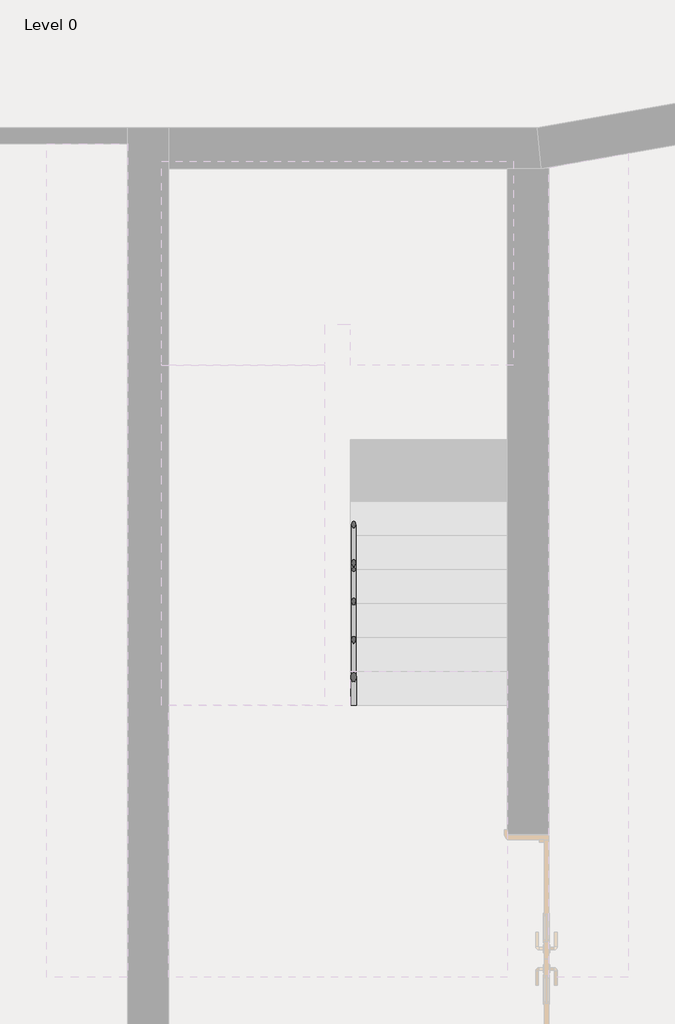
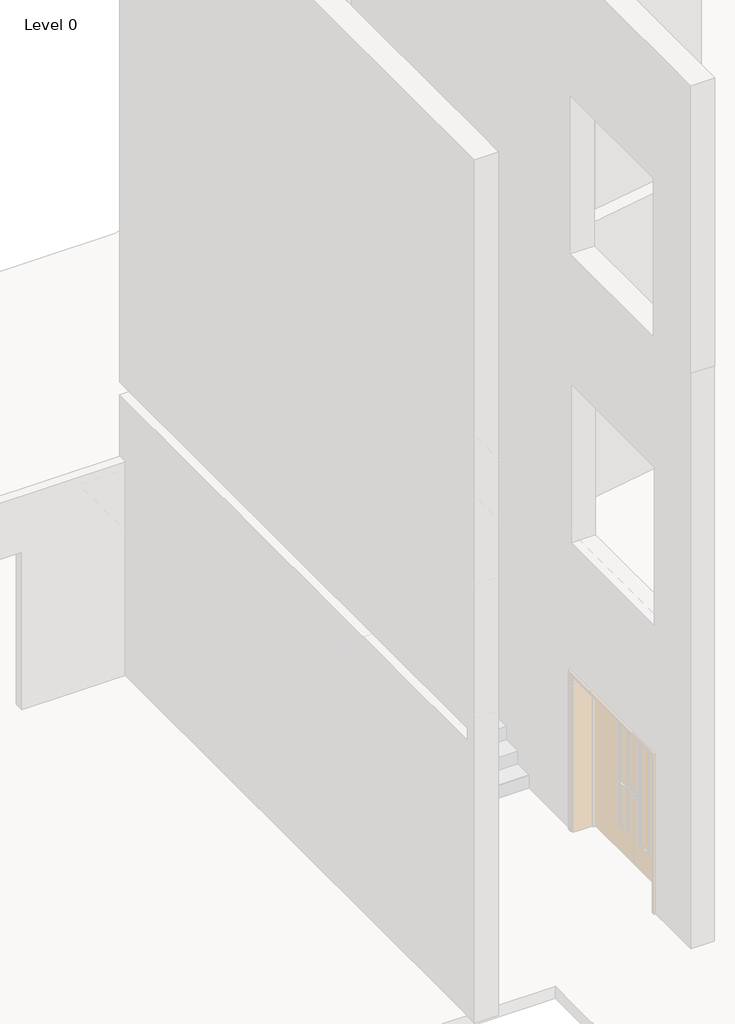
# One storey, part 13 of 14: 1 railing.
"""IFC4 building model written with IfcOpenShell, lengths in millimetres."""

from ifc_helpers import new_model, si_unit, point, frame, frame_2d, origin, place, context, project, spatial, circle_curve, ellipse_curve, trimmed, segment, composite_curve, outline, extrude, element, save
from ifc_brep_helpers import plane_surface, cylinder_surface, advanced_brep

model = new_model("IFC4")

# Units and contexts
model_context = context("Model", 3, world=origin())
ifc_project = project(units=[si_unit("LENGTHUNIT", "METRE", prefix="MILLI")], contexts=[model_context])

# Site, building, storey
site = spatial("IfcSite", under=ifc_project)
building = spatial("IfcBuilding", under=site)
storey = spatial("IfcBuildingStorey", under=building, Name="Level 0", Elevation=0.0)

# Railing
placement = place(None, origin())
element("IfcRailing", 1, ObjectType="900mm_Pipe", at=placement, inside=storey, context=model_context, shape_type="SolidModel", body=[
    advanced_brep(
    [(29097.6000029, 3763.2000006, 1052.7548977), (29057.6000029, 3763.2000006, 1052.7548977), (29097.6000029, 6269.5712987, 2830.0), (29057.6000029, 6269.5712987, 2830.0), (29097.6000029, 6608.6000006, 2830.0), (29057.6000029, 6568.6000006, 2830.0), (28816.8000029, 6608.6000006, 2830.0), (28856.8000029, 6568.6000006, 2830.0), (28816.8000029, 6506.8287024, 2830.0), (28856.8000029, 6506.8287024, 2830.0), (28816.8000029, 6251.631425, 3010.9580695), (28856.8000029, 6251.631425, 3010.9580695), (28816.8000029, 3763.2000006, 4775.4821704), (28856.8000029, 3763.2000006, 4775.4821704)],
    [
        (0, 1, ellipse_curve(frame((29077.6000029, 3763.2000006, 1052.7548977), z_axis=(0.0, -1.0, 0.0), x_axis=(0.0, 0.0, -1.0)), 24.5178296, 20.0)),
        (1, 0, ellipse_curve(frame((29077.6000029, 3763.2000006, 1052.7548977), z_axis=(0.0, -1.0, 0.0), x_axis=(0.0, 0.0, -1.0)), 24.5178296, 20.0)),
        (0, 2),
        (2, 3, ellipse_curve(frame((29077.6000029, 6269.5712987, 2830.0), z_axis=(0.0, -0.9528202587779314, -0.3035350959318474), x_axis=(0.0, 0.30353509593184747, -0.9528202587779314)), 20.9903178, 20.0)),
        (3, 1),
        (3, 2, ellipse_curve(frame((29077.6000029, 6269.5712987, 2830.0), z_axis=(0.0, -0.9528202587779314, -0.3035350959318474), x_axis=(0.0, 0.30353509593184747, -0.9528202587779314)), 20.9903178, 20.0)),
        (2, 4),
        (4, 5, ellipse_curve(frame((29077.6000029, 6588.6000006, 2830.0), z_axis=(0.7071067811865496, -0.7071067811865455, 0.0), x_axis=(-0.7071067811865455, -0.7071067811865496, 0.0)), 28.2842712, 20.0)),
        (5, 3),
        (5, 4, ellipse_curve(frame((29077.6000029, 6588.6000006, 2830.0), z_axis=(0.7071067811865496, -0.7071067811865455, 0.0), x_axis=(-0.7071067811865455, -0.7071067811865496, 0.0)), 28.2842712, 20.0)),
        (4, 6),
        (6, 7, ellipse_curve(frame((28836.8000029, 6588.6000006, 2830.0), z_axis=(0.7071067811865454, 0.7071067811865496, 0.0), x_axis=(0.7071067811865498, -0.7071067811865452, 0.0)), 28.2842712, 20.0)),
        (7, 5),
        (7, 6, ellipse_curve(frame((28836.8000029, 6588.6000006, 2830.0), z_axis=(0.7071067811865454, 0.7071067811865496, 0.0), x_axis=(0.7071067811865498, -0.7071067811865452, 0.0)), 28.2842712, 20.0)),
        (6, 8),
        (8, 9, ellipse_curve(frame((28836.8000029, 6506.8287024, 2830.0), z_axis=(0.0, 0.9528202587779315, -0.3035350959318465), x_axis=(0.0, 0.3035350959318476, 0.9528202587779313)), 20.9903178, 20.0)),
        (9, 7),
        (9, 8, ellipse_curve(frame((28836.8000029, 6506.8287024, 2830.0), z_axis=(0.0, 0.9528202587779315, -0.3035350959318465), x_axis=(0.0, 0.3035350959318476, 0.9528202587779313)), 20.9903178, 20.0)),
        (8, 10),
        (10, 11, circle_curve(frame((28836.8000029, 6251.631425, 3010.9580695), z_axis=(0.0, 0.8157328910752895, -0.5784287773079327), x_axis=(1.0, 0.0, 0.0)), 20.0)),
        (11, 9),
        (11, 10, circle_curve(frame((28836.8000029, 6251.631425, 3010.9580695), z_axis=(0.0, 0.8157328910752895, -0.5784287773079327), x_axis=(1.0, 0.0, 0.0)), 20.0)),
        (12, 13, ellipse_curve(frame((28836.8000029, 3763.2000006, 4775.4821704), z_axis=(0.0, -1.0, 0.0), x_axis=(0.0, 0.0, -1.0)), 24.5178296, 20.0)),
        (13, 12, ellipse_curve(frame((28836.8000029, 3763.2000006, 4775.4821704), z_axis=(0.0, -1.0, 0.0), x_axis=(0.0, 0.0, -1.0)), 24.5178296, 20.0)),
        (10, 12),
        (13, 11),
    ],
    [
        plane_surface(frame((29077.6000029, 3763.2000006, 1077.2727273), z_axis=(0.0, -1.0, 0.0), x_axis=(0.0, 0.0, 1.0))),
        cylinder_surface(frame((29077.6000029, 3774.7685761, 1060.9580695), z_axis=(0.0, -0.8157328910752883, -0.5784287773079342), x_axis=(-1.0, 0.0, 0.0)), 20.0),
        cylinder_surface(frame((29077.6000029, 6263.2000006, 2830.0), z_axis=(0.0, -1.0, 0.0), x_axis=(-1.0, 0.0, 0.0)), 20.0),
        cylinder_surface(frame((29077.6000029, 6588.6000006, 2830.0), z_axis=(1.0, 0.0, 0.0), x_axis=(0.0, -1.0, 0.0)), 20.0),
        cylinder_surface(frame((28836.8000029, 6588.6000006, 2830.0), z_axis=(0.0, 1.0, 0.0), x_axis=(1.0, 0.0, 0.0)), 20.0),
        cylinder_surface(frame((28836.8000029, 6501.631425, 2833.6853422), z_axis=(0.0, 0.8157328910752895, -0.5784287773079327), x_axis=(1.0, 0.0, 0.0)), 20.0),
        plane_surface(frame((28836.8000029, 3763.2000006, 4800.0), z_axis=(0.0, -1.0, 0.0), x_axis=(0.0, 0.0, -1.0))),
        cylinder_surface(frame((28836.8000029, 6251.631425, 3010.9580695), z_axis=(0.0, 0.8157328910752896, -0.5784287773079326), x_axis=(1.0, 0.0, 0.0)), 20.0),
    ],
    [
        (0, [[1, 2]]),
        (1, [[-1, 3, 4, 5]]),
        (1, [[-2, -5, 6, -3]]),
        (2, [[-4, 7, 8, 9]]),
        (2, [[-6, -9, 10, -7]]),
        (3, [[-8, 11, 12, 13]]),
        (3, [[-10, -13, 14, -11]]),
        (4, [[-12, 15, 16, 17]]),
        (4, [[-14, -17, 18, -15]]),
        (5, [[-16, 19, 20, 21]]),
        (5, [[-18, -21, 22, -19]]),
        (6, [[23, 24]]),
        (7, [[-20, 25, -24, 26]]),
        (7, [[-22, -26, -23, -25]]),
    ],
),
    advanced_brep(
    [(29092.6000029, 3763.2000006, 858.8843551), (29062.6000029, 3763.2000006, 858.8843551), (29092.6000029, 6263.2000006, 2631.6116278), (29062.6000029, 6263.2000006, 2631.6116278)],
    [
        (0, 1, ellipse_curve(frame((29077.6000029, 3763.2000006, 858.8843551), z_axis=(0.0, -1.0, 0.0), x_axis=(0.0, 0.0, -1.0)), 18.3883722, 15.0)),
        (1, 0, ellipse_curve(frame((29077.6000029, 3763.2000006, 858.8843551), z_axis=(0.0, -1.0, 0.0), x_axis=(0.0, 0.0, -1.0)), 18.3883722, 15.0)),
        (2, 3, ellipse_curve(frame((29077.6000029, 6263.2000006, 2631.6116278), z_axis=(0.0, 1.0, 0.0), x_axis=(0.0, 0.0, -1.0)), 18.3883722, 15.0)),
        (3, 2, ellipse_curve(frame((29077.6000029, 6263.2000006, 2631.6116278), z_axis=(0.0, 1.0, 0.0), x_axis=(0.0, 0.0, -1.0)), 18.3883722, 15.0)),
        (0, 2),
        (3, 1),
    ],
    [
        plane_surface(frame((29077.6000029, 3763.2000006, 877.2727273), z_axis=(0.0, -1.0, 0.0), x_axis=(0.0, 0.0, 1.0))),
        plane_surface(frame((29077.6000029, 6263.2000006, 2650.0), z_axis=(0.0, 1.0, 0.0), x_axis=(0.0, 0.0, 1.0))),
        cylinder_surface(frame((29077.6000029, 3771.8764322, 865.0367339), z_axis=(0.0, -0.8157328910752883, -0.5784287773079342), x_axis=(-1.0, 0.0, 0.0)), 15.0),
    ],
    [
        (0, [[1, 2]]),
        (1, [[3, 4]]),
        (2, [[-1, 5, -4, 6]]),
        (2, [[-2, -6, -3, -5]]),
    ],
),
    advanced_brep(
    [(29092.6000029, 6263.2000006, 2635.0), (29062.6000029, 6263.2000006, 2635.0), (29092.6000029, 6573.6000006, 2635.0), (29062.6000029, 6573.6000006, 2635.0)],
    [
        (0, 1, circle_curve(frame((29077.6000029, 6263.2000006, 2635.0), z_axis=(0.0, -1.0, 0.0), x_axis=(-1.0, 0.0, 0.0)), 15.0)),
        (1, 0, circle_curve(frame((29077.6000029, 6263.2000006, 2635.0), z_axis=(0.0, -1.0, 0.0), x_axis=(-1.0, 0.0, 0.0)), 15.0)),
        (2, 3, circle_curve(frame((29077.6000029, 6573.6000006, 2635.0), z_axis=(0.0, 1.0, 0.0), x_axis=(-1.0, 0.0, 0.0)), 15.0)),
        (3, 2, circle_curve(frame((29077.6000029, 6573.6000006, 2635.0), z_axis=(0.0, 1.0, 0.0), x_axis=(-1.0, 0.0, 0.0)), 15.0)),
        (0, 2),
        (3, 1),
    ],
    [
        plane_surface(frame((29077.6000029, 6263.2000006, 2650.0), z_axis=(0.0, -1.0, 0.0), x_axis=(0.0, 0.0, 1.0))),
        plane_surface(frame((29077.6000029, 6573.6000006, 2650.0), z_axis=(0.0, 1.0, 0.0), x_axis=(0.0, 0.0, 1.0))),
        cylinder_surface(frame((29077.6000029, 6263.2000006, 2635.0), z_axis=(0.0, -1.0, 0.0), x_axis=(-1.0, 0.0, 0.0)), 15.0),
    ],
    [
        (0, [[1, 2]]),
        (1, [[3, 4]]),
        (2, [[-1, 5, -4, 6]]),
        (2, [[-2, -6, -3, -5]]),
    ],
),
    advanced_brep(
    [(29092.6000029, 6603.6000006, 2635.0), (29092.6000029, 6573.6000006, 2635.0), (28851.8000029, 6603.6000006, 2635.0), (28851.8000029, 6573.6000006, 2635.0)],
    [
        (0, 1, circle_curve(frame((29092.6000029, 6588.6000006, 2635.0), z_axis=(1.0, 0.0, 0.0), x_axis=(0.0, -1.0, 0.0)), 15.0)),
        (1, 0, circle_curve(frame((29092.6000029, 6588.6000006, 2635.0), z_axis=(1.0, 0.0, 0.0), x_axis=(0.0, -1.0, 0.0)), 15.0)),
        (2, 3, circle_curve(frame((28851.8000029, 6588.6000006, 2635.0), z_axis=(-1.0, 0.0, 0.0), x_axis=(0.0, -1.0, 0.0)), 15.0)),
        (3, 2, circle_curve(frame((28851.8000029, 6588.6000006, 2635.0), z_axis=(-1.0, 0.0, 0.0), x_axis=(0.0, -1.0, 0.0)), 15.0)),
        (0, 2),
        (3, 1),
    ],
    [
        plane_surface(frame((29092.6000029, 6588.6000006, 2650.0), z_axis=(1.0, 0.0, 0.0), x_axis=(0.0, -1.0, 0.0))),
        plane_surface(frame((28851.8000029, 6588.6000006, 2650.0), z_axis=(-1.0, 0.0, 0.0), x_axis=(0.0, -1.0, 0.0))),
        cylinder_surface(frame((29092.6000029, 6588.6000006, 2635.0), z_axis=(1.0, 0.0, 0.0), x_axis=(0.0, -1.0, 0.0)), 15.0),
    ],
    [
        (0, [[1, 2]]),
        (1, [[3, 4]]),
        (2, [[-1, 5, -4, 6]]),
        (2, [[-2, -6, -3, -5]]),
    ],
),
    advanced_brep(
    [(28821.8000029, 6603.6000006, 2635.0), (28851.8000029, 6603.6000006, 2635.0), (28821.8000029, 6508.421527, 2635.0), (28851.8000029, 6508.421527, 2635.0), (28821.8000029, 6263.2000006, 2808.8843551), (28851.8000029, 6263.2000006, 2808.8843551)],
    [
        (0, 1, circle_curve(frame((28836.8000029, 6603.6000006, 2635.0), z_axis=(0.0, 1.0, 0.0), x_axis=(1.0, 0.0, 0.0)), 15.0)),
        (1, 0, circle_curve(frame((28836.8000029, 6603.6000006, 2635.0), z_axis=(0.0, 1.0, 0.0), x_axis=(1.0, 0.0, 0.0)), 15.0)),
        (0, 2),
        (2, 3, ellipse_curve(frame((28836.8000029, 6508.421527, 2635.0), z_axis=(0.0, 0.9528202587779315, -0.3035350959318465), x_axis=(0.0, 0.3035350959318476, 0.9528202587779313)), 15.7427383, 15.0)),
        (3, 1),
        (3, 2, ellipse_curve(frame((28836.8000029, 6508.421527, 2635.0), z_axis=(0.0, 0.9528202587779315, -0.3035350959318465), x_axis=(0.0, 0.3035350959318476, 0.9528202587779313)), 15.7427383, 15.0)),
        (4, 5, ellipse_curve(frame((28836.8000029, 6263.2000006, 2808.8843551), z_axis=(0.0, -1.0, 0.0), x_axis=(0.0, 0.0, -1.0)), 18.3883722, 15.0)),
        (5, 4, ellipse_curve(frame((28836.8000029, 6263.2000006, 2808.8843551), z_axis=(0.0, -1.0, 0.0), x_axis=(0.0, 0.0, -1.0)), 18.3883722, 15.0)),
        (2, 4),
        (5, 3),
    ],
    [
        plane_surface(frame((28836.8000029, 6603.6000006, 2650.0), z_axis=(0.0, 1.0, 0.0), x_axis=(0.0, 0.0, -1.0))),
        cylinder_surface(frame((28836.8000029, 6603.6000006, 2635.0), z_axis=(0.0, 1.0, 0.0), x_axis=(1.0, 0.0, 0.0)), 15.0),
        plane_surface(frame((28836.8000029, 6263.2000006, 2827.2727273), z_axis=(0.0, -1.0, 0.0), x_axis=(0.0, 0.0, -1.0))),
        cylinder_surface(frame((28836.8000029, 6504.5235689, 2637.7640066), z_axis=(0.0, 0.8157328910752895, -0.5784287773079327), x_axis=(1.0, 0.0, 0.0)), 15.0),
    ],
    [
        (0, [[1, 2]]),
        (1, [[-1, 3, 4, 5]]),
        (1, [[-2, -5, 6, -3]]),
        (2, [[7, 8]]),
        (3, [[-4, 9, -8, 10]]),
        (3, [[-6, -10, -7, -9]]),
    ],
),
    advanced_brep(
    [(28821.8000029, 6263.2000006, 2808.8843551), (28851.8000029, 6263.2000006, 2808.8843551), (28821.8000029, 3763.2000006, 4581.6116278), (28851.8000029, 3763.2000006, 4581.6116278)],
    [
        (0, 1, ellipse_curve(frame((28836.8000029, 6263.2000006, 2808.8843551), z_axis=(0.0, 1.0, 0.0), x_axis=(0.0, 0.0, -1.0)), 18.3883722, 15.0)),
        (1, 0, ellipse_curve(frame((28836.8000029, 6263.2000006, 2808.8843551), z_axis=(0.0, 1.0, 0.0), x_axis=(0.0, 0.0, -1.0)), 18.3883722, 15.0)),
        (2, 3, ellipse_curve(frame((28836.8000029, 3763.2000006, 4581.6116278), z_axis=(0.0, -1.0, 0.0), x_axis=(0.0, 0.0, -1.0)), 18.3883722, 15.0)),
        (3, 2, ellipse_curve(frame((28836.8000029, 3763.2000006, 4581.6116278), z_axis=(0.0, -1.0, 0.0), x_axis=(0.0, 0.0, -1.0)), 18.3883722, 15.0)),
        (0, 2),
        (3, 1),
    ],
    [
        plane_surface(frame((28836.8000029, 6263.2000006, 2827.2727273), z_axis=(0.0, 1.0, 0.0), x_axis=(0.0, 0.0, -1.0))),
        plane_surface(frame((28836.8000029, 3763.2000006, 4600.0), z_axis=(0.0, -1.0, 0.0), x_axis=(0.0, 0.0, -1.0))),
        cylinder_surface(frame((28836.8000029, 6254.5235689, 2815.0367339), z_axis=(0.0, 0.8157328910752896, -0.5784287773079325), x_axis=(1.0, 0.0, 0.0)), 15.0),
    ],
    [
        (0, [[1, 2]]),
        (1, [[3, 4]]),
        (2, [[-1, 5, -4, 6]]),
        (2, [[-2, -6, -3, -5]]),
    ],
),
    advanced_brep(
    [(29092.6000029, 3763.2000006, 658.8843551), (29062.6000029, 3763.2000006, 658.8843551), (29092.6000029, 6263.2000006, 2431.6116278), (29062.6000029, 6263.2000006, 2431.6116278)],
    [
        (0, 1, ellipse_curve(frame((29077.6000029, 3763.2000006, 658.8843551), z_axis=(0.0, -1.0, 0.0), x_axis=(0.0, 0.0, -1.0)), 18.3883722, 15.0)),
        (1, 0, ellipse_curve(frame((29077.6000029, 3763.2000006, 658.8843551), z_axis=(0.0, -1.0, 0.0), x_axis=(0.0, 0.0, -1.0)), 18.3883722, 15.0)),
        (2, 3, ellipse_curve(frame((29077.6000029, 6263.2000006, 2431.6116278), z_axis=(0.0, 1.0, 0.0), x_axis=(0.0, 0.0, -1.0)), 18.3883722, 15.0)),
        (3, 2, ellipse_curve(frame((29077.6000029, 6263.2000006, 2431.6116278), z_axis=(0.0, 1.0, 0.0), x_axis=(0.0, 0.0, -1.0)), 18.3883722, 15.0)),
        (0, 2),
        (3, 1),
    ],
    [
        plane_surface(frame((29077.6000029, 3763.2000006, 677.2727273), z_axis=(0.0, -1.0, 0.0), x_axis=(0.0, 0.0, 1.0))),
        plane_surface(frame((29077.6000029, 6263.2000006, 2450.0), z_axis=(0.0, 1.0, 0.0), x_axis=(0.0, 0.0, 1.0))),
        cylinder_surface(frame((29077.6000029, 3771.8764322, 665.0367339), z_axis=(0.0, -0.8157328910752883, -0.5784287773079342), x_axis=(-1.0, 0.0, 0.0)), 15.0),
    ],
    [
        (0, [[1, 2]]),
        (1, [[3, 4]]),
        (2, [[-1, 5, -4, 6]]),
        (2, [[-2, -6, -3, -5]]),
    ],
),
    advanced_brep(
    [(29092.6000029, 6263.2000006, 2435.0), (29062.6000029, 6263.2000006, 2435.0), (29092.6000029, 6573.6000006, 2435.0), (29062.6000029, 6573.6000006, 2435.0)],
    [
        (0, 1, circle_curve(frame((29077.6000029, 6263.2000006, 2435.0), z_axis=(0.0, -1.0, 0.0), x_axis=(-1.0, 0.0, 0.0)), 15.0)),
        (1, 0, circle_curve(frame((29077.6000029, 6263.2000006, 2435.0), z_axis=(0.0, -1.0, 0.0), x_axis=(-1.0, 0.0, 0.0)), 15.0)),
        (2, 3, circle_curve(frame((29077.6000029, 6573.6000006, 2435.0), z_axis=(0.0, 1.0, 0.0), x_axis=(-1.0, 0.0, 0.0)), 15.0)),
        (3, 2, circle_curve(frame((29077.6000029, 6573.6000006, 2435.0), z_axis=(0.0, 1.0, 0.0), x_axis=(-1.0, 0.0, 0.0)), 15.0)),
        (0, 2),
        (3, 1),
    ],
    [
        plane_surface(frame((29077.6000029, 6263.2000006, 2450.0), z_axis=(0.0, -1.0, 0.0), x_axis=(0.0, 0.0, 1.0))),
        plane_surface(frame((29077.6000029, 6573.6000006, 2450.0), z_axis=(0.0, 1.0, 0.0), x_axis=(0.0, 0.0, 1.0))),
        cylinder_surface(frame((29077.6000029, 6263.2000006, 2435.0), z_axis=(0.0, -1.0, 0.0), x_axis=(-1.0, 0.0, 0.0)), 15.0),
    ],
    [
        (0, [[1, 2]]),
        (1, [[3, 4]]),
        (2, [[-1, 5, -4, 6]]),
        (2, [[-2, -6, -3, -5]]),
    ],
),
    advanced_brep(
    [(29092.6000029, 6603.6000006, 2435.0), (29092.6000029, 6573.6000006, 2435.0), (28851.8000029, 6603.6000006, 2435.0), (28851.8000029, 6573.6000006, 2435.0)],
    [
        (0, 1, circle_curve(frame((29092.6000029, 6588.6000006, 2435.0), z_axis=(1.0, 0.0, 0.0), x_axis=(0.0, -1.0, 0.0)), 15.0)),
        (1, 0, circle_curve(frame((29092.6000029, 6588.6000006, 2435.0), z_axis=(1.0, 0.0, 0.0), x_axis=(0.0, -1.0, 0.0)), 15.0)),
        (2, 3, circle_curve(frame((28851.8000029, 6588.6000006, 2435.0), z_axis=(-1.0, 0.0, 0.0), x_axis=(0.0, -1.0, 0.0)), 15.0)),
        (3, 2, circle_curve(frame((28851.8000029, 6588.6000006, 2435.0), z_axis=(-1.0, 0.0, 0.0), x_axis=(0.0, -1.0, 0.0)), 15.0)),
        (0, 2),
        (3, 1),
    ],
    [
        plane_surface(frame((29092.6000029, 6588.6000006, 2450.0), z_axis=(1.0, 0.0, 0.0), x_axis=(0.0, -1.0, 0.0))),
        plane_surface(frame((28851.8000029, 6588.6000006, 2450.0), z_axis=(-1.0, 0.0, 0.0), x_axis=(0.0, -1.0, 0.0))),
        cylinder_surface(frame((29092.6000029, 6588.6000006, 2435.0), z_axis=(1.0, 0.0, 0.0), x_axis=(0.0, -1.0, 0.0)), 15.0),
    ],
    [
        (0, [[1, 2]]),
        (1, [[3, 4]]),
        (2, [[-1, 5, -4, 6]]),
        (2, [[-2, -6, -3, -5]]),
    ],
),
    advanced_brep(
    [(28821.8000029, 6603.6000006, 2435.0), (28851.8000029, 6603.6000006, 2435.0), (28821.8000029, 6508.421527, 2435.0), (28851.8000029, 6508.421527, 2435.0), (28821.8000029, 6263.2000006, 2608.8843551), (28851.8000029, 6263.2000006, 2608.8843551)],
    [
        (0, 1, circle_curve(frame((28836.8000029, 6603.6000006, 2435.0), z_axis=(0.0, 1.0, 0.0), x_axis=(1.0, 0.0, 0.0)), 15.0)),
        (1, 0, circle_curve(frame((28836.8000029, 6603.6000006, 2435.0), z_axis=(0.0, 1.0, 0.0), x_axis=(1.0, 0.0, 0.0)), 15.0)),
        (0, 2),
        (2, 3, ellipse_curve(frame((28836.8000029, 6508.421527, 2435.0), z_axis=(0.0, 0.9528202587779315, -0.3035350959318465), x_axis=(0.0, 0.3035350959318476, 0.9528202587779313)), 15.7427383, 15.0)),
        (3, 1),
        (3, 2, ellipse_curve(frame((28836.8000029, 6508.421527, 2435.0), z_axis=(0.0, 0.9528202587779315, -0.3035350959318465), x_axis=(0.0, 0.3035350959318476, 0.9528202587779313)), 15.7427383, 15.0)),
        (4, 5, ellipse_curve(frame((28836.8000029, 6263.2000006, 2608.8843551), z_axis=(0.0, -1.0, 0.0), x_axis=(0.0, 0.0, -1.0)), 18.3883722, 15.0)),
        (5, 4, ellipse_curve(frame((28836.8000029, 6263.2000006, 2608.8843551), z_axis=(0.0, -1.0, 0.0), x_axis=(0.0, 0.0, -1.0)), 18.3883722, 15.0)),
        (2, 4),
        (5, 3),
    ],
    [
        plane_surface(frame((28836.8000029, 6603.6000006, 2450.0), z_axis=(0.0, 1.0, 0.0), x_axis=(0.0, 0.0, -1.0))),
        cylinder_surface(frame((28836.8000029, 6603.6000006, 2435.0), z_axis=(0.0, 1.0, 0.0), x_axis=(1.0, 0.0, 0.0)), 15.0),
        plane_surface(frame((28836.8000029, 6263.2000006, 2627.2727273), z_axis=(0.0, -1.0, 0.0), x_axis=(0.0, 0.0, -1.0))),
        cylinder_surface(frame((28836.8000029, 6504.5235689, 2437.7640066), z_axis=(0.0, 0.8157328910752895, -0.5784287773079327), x_axis=(1.0, 0.0, 0.0)), 15.0),
    ],
    [
        (0, [[1, 2]]),
        (1, [[-1, 3, 4, 5]]),
        (1, [[-2, -5, 6, -3]]),
        (2, [[7, 8]]),
        (3, [[-4, 9, -8, 10]]),
        (3, [[-6, -10, -7, -9]]),
    ],
),
    advanced_brep(
    [(28821.8000029, 6263.2000006, 2608.8843551), (28851.8000029, 6263.2000006, 2608.8843551), (28821.8000029, 3763.2000006, 4381.6116278), (28851.8000029, 3763.2000006, 4381.6116278)],
    [
        (0, 1, ellipse_curve(frame((28836.8000029, 6263.2000006, 2608.8843551), z_axis=(0.0, 1.0, 0.0), x_axis=(0.0, 0.0, -1.0)), 18.3883722, 15.0)),
        (1, 0, ellipse_curve(frame((28836.8000029, 6263.2000006, 2608.8843551), z_axis=(0.0, 1.0, 0.0), x_axis=(0.0, 0.0, -1.0)), 18.3883722, 15.0)),
        (2, 3, ellipse_curve(frame((28836.8000029, 3763.2000006, 4381.6116278), z_axis=(0.0, -1.0, 0.0), x_axis=(0.0, 0.0, -1.0)), 18.3883722, 15.0)),
        (3, 2, ellipse_curve(frame((28836.8000029, 3763.2000006, 4381.6116278), z_axis=(0.0, -1.0, 0.0), x_axis=(0.0, 0.0, -1.0)), 18.3883722, 15.0)),
        (0, 2),
        (3, 1),
    ],
    [
        plane_surface(frame((28836.8000029, 6263.2000006, 2627.2727273), z_axis=(0.0, 1.0, 0.0), x_axis=(0.0, 0.0, -1.0))),
        plane_surface(frame((28836.8000029, 3763.2000006, 4400.0), z_axis=(0.0, -1.0, 0.0), x_axis=(0.0, 0.0, -1.0))),
        cylinder_surface(frame((28836.8000029, 6254.5235689, 2615.0367339), z_axis=(0.0, 0.8157328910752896, -0.5784287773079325), x_axis=(1.0, 0.0, 0.0)), 15.0),
    ],
    [
        (0, [[1, 2]]),
        (1, [[3, 4]]),
        (2, [[-1, 5, -4, 6]]),
        (2, [[-2, -6, -3, -5]]),
    ],
),
    advanced_brep(
    [(29092.6000029, 3763.2000006, 458.8843551), (29062.6000029, 3763.2000006, 458.8843551), (29092.6000029, 6263.2000006, 2231.6116278), (29062.6000029, 6263.2000006, 2231.6116278)],
    [
        (0, 1, ellipse_curve(frame((29077.6000029, 3763.2000006, 458.8843551), z_axis=(0.0, -1.0, 0.0), x_axis=(0.0, 0.0, -1.0)), 18.3883722, 15.0)),
        (1, 0, ellipse_curve(frame((29077.6000029, 3763.2000006, 458.8843551), z_axis=(0.0, -1.0, 0.0), x_axis=(0.0, 0.0, -1.0)), 18.3883722, 15.0)),
        (2, 3, ellipse_curve(frame((29077.6000029, 6263.2000006, 2231.6116278), z_axis=(0.0, 1.0, 0.0), x_axis=(0.0, 0.0, -1.0)), 18.3883722, 15.0)),
        (3, 2, ellipse_curve(frame((29077.6000029, 6263.2000006, 2231.6116278), z_axis=(0.0, 1.0, 0.0), x_axis=(0.0, 0.0, -1.0)), 18.3883722, 15.0)),
        (0, 2),
        (3, 1),
    ],
    [
        plane_surface(frame((29077.6000029, 3763.2000006, 477.2727273), z_axis=(0.0, -1.0, 0.0), x_axis=(0.0, 0.0, 1.0))),
        plane_surface(frame((29077.6000029, 6263.2000006, 2250.0), z_axis=(0.0, 1.0, 0.0), x_axis=(0.0, 0.0, 1.0))),
        cylinder_surface(frame((29077.6000029, 3771.8764322, 465.0367339), z_axis=(0.0, -0.8157328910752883, -0.5784287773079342), x_axis=(-1.0, 0.0, 0.0)), 15.0),
    ],
    [
        (0, [[1, 2]]),
        (1, [[3, 4]]),
        (2, [[-1, 5, -4, 6]]),
        (2, [[-2, -6, -3, -5]]),
    ],
),
    advanced_brep(
    [(29092.6000029, 6263.2000006, 2235.0), (29062.6000029, 6263.2000006, 2235.0), (29092.6000029, 6573.6000006, 2235.0), (29062.6000029, 6573.6000006, 2235.0)],
    [
        (0, 1, circle_curve(frame((29077.6000029, 6263.2000006, 2235.0), z_axis=(0.0, -1.0, 0.0), x_axis=(-1.0, 0.0, 0.0)), 15.0)),
        (1, 0, circle_curve(frame((29077.6000029, 6263.2000006, 2235.0), z_axis=(0.0, -1.0, 0.0), x_axis=(-1.0, 0.0, 0.0)), 15.0)),
        (2, 3, circle_curve(frame((29077.6000029, 6573.6000006, 2235.0), z_axis=(0.0, 1.0, 0.0), x_axis=(-1.0, 0.0, 0.0)), 15.0)),
        (3, 2, circle_curve(frame((29077.6000029, 6573.6000006, 2235.0), z_axis=(0.0, 1.0, 0.0), x_axis=(-1.0, 0.0, 0.0)), 15.0)),
        (0, 2),
        (3, 1),
    ],
    [
        plane_surface(frame((29077.6000029, 6263.2000006, 2250.0), z_axis=(0.0, -1.0, 0.0), x_axis=(0.0, 0.0, 1.0))),
        plane_surface(frame((29077.6000029, 6573.6000006, 2250.0), z_axis=(0.0, 1.0, 0.0), x_axis=(0.0, 0.0, 1.0))),
        cylinder_surface(frame((29077.6000029, 6263.2000006, 2235.0), z_axis=(0.0, -1.0, 0.0), x_axis=(-1.0, 0.0, 0.0)), 15.0),
    ],
    [
        (0, [[1, 2]]),
        (1, [[3, 4]]),
        (2, [[-1, 5, -4, 6]]),
        (2, [[-2, -6, -3, -5]]),
    ],
),
    advanced_brep(
    [(29092.6000029, 6603.6000006, 2235.0), (29092.6000029, 6573.6000006, 2235.0), (28851.8000029, 6603.6000006, 2235.0), (28851.8000029, 6573.6000006, 2235.0)],
    [
        (0, 1, circle_curve(frame((29092.6000029, 6588.6000006, 2235.0), z_axis=(1.0, 0.0, 0.0), x_axis=(0.0, -1.0, 0.0)), 15.0)),
        (1, 0, circle_curve(frame((29092.6000029, 6588.6000006, 2235.0), z_axis=(1.0, 0.0, 0.0), x_axis=(0.0, -1.0, 0.0)), 15.0)),
        (2, 3, circle_curve(frame((28851.8000029, 6588.6000006, 2235.0), z_axis=(-1.0, 0.0, 0.0), x_axis=(0.0, -1.0, 0.0)), 15.0)),
        (3, 2, circle_curve(frame((28851.8000029, 6588.6000006, 2235.0), z_axis=(-1.0, 0.0, 0.0), x_axis=(0.0, -1.0, 0.0)), 15.0)),
        (0, 2),
        (3, 1),
    ],
    [
        plane_surface(frame((29092.6000029, 6588.6000006, 2250.0), z_axis=(1.0, 0.0, 0.0), x_axis=(0.0, -1.0, 0.0))),
        plane_surface(frame((28851.8000029, 6588.6000006, 2250.0), z_axis=(-1.0, 0.0, 0.0), x_axis=(0.0, -1.0, 0.0))),
        cylinder_surface(frame((29092.6000029, 6588.6000006, 2235.0), z_axis=(1.0, 0.0, 0.0), x_axis=(0.0, -1.0, 0.0)), 15.0),
    ],
    [
        (0, [[1, 2]]),
        (1, [[3, 4]]),
        (2, [[-1, 5, -4, 6]]),
        (2, [[-2, -6, -3, -5]]),
    ],
),
    advanced_brep(
    [(28821.8000029, 6603.6000006, 2235.0), (28851.8000029, 6603.6000006, 2235.0), (28821.8000029, 6508.421527, 2235.0), (28851.8000029, 6508.421527, 2235.0), (28821.8000029, 6263.2000006, 2408.8843551), (28851.8000029, 6263.2000006, 2408.8843551)],
    [
        (0, 1, circle_curve(frame((28836.8000029, 6603.6000006, 2235.0), z_axis=(0.0, 1.0, 0.0), x_axis=(1.0, 0.0, 0.0)), 15.0)),
        (1, 0, circle_curve(frame((28836.8000029, 6603.6000006, 2235.0), z_axis=(0.0, 1.0, 0.0), x_axis=(1.0, 0.0, 0.0)), 15.0)),
        (0, 2),
        (2, 3, ellipse_curve(frame((28836.8000029, 6508.421527, 2235.0), z_axis=(0.0, 0.9528202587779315, -0.3035350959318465), x_axis=(0.0, 0.3035350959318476, 0.9528202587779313)), 15.7427383, 15.0)),
        (3, 1),
        (3, 2, ellipse_curve(frame((28836.8000029, 6508.421527, 2235.0), z_axis=(0.0, 0.9528202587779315, -0.3035350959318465), x_axis=(0.0, 0.3035350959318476, 0.9528202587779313)), 15.7427383, 15.0)),
        (4, 5, ellipse_curve(frame((28836.8000029, 6263.2000006, 2408.8843551), z_axis=(0.0, -1.0, 0.0), x_axis=(0.0, 0.0, -1.0)), 18.3883722, 15.0)),
        (5, 4, ellipse_curve(frame((28836.8000029, 6263.2000006, 2408.8843551), z_axis=(0.0, -1.0, 0.0), x_axis=(0.0, 0.0, -1.0)), 18.3883722, 15.0)),
        (2, 4),
        (5, 3),
    ],
    [
        plane_surface(frame((28836.8000029, 6603.6000006, 2250.0), z_axis=(0.0, 1.0, 0.0), x_axis=(0.0, 0.0, -1.0))),
        cylinder_surface(frame((28836.8000029, 6603.6000006, 2235.0), z_axis=(0.0, 1.0, 0.0), x_axis=(1.0, 0.0, 0.0)), 15.0),
        plane_surface(frame((28836.8000029, 6263.2000006, 2427.2727273), z_axis=(0.0, -1.0, 0.0), x_axis=(0.0, 0.0, -1.0))),
        cylinder_surface(frame((28836.8000029, 6504.5235689, 2237.7640066), z_axis=(0.0, 0.8157328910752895, -0.5784287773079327), x_axis=(1.0, 0.0, 0.0)), 15.0),
    ],
    [
        (0, [[1, 2]]),
        (1, [[-1, 3, 4, 5]]),
        (1, [[-2, -5, 6, -3]]),
        (2, [[7, 8]]),
        (3, [[-4, 9, -8, 10]]),
        (3, [[-6, -10, -7, -9]]),
    ],
),
    advanced_brep(
    [(28821.8000029, 6263.2000006, 2408.8843551), (28851.8000029, 6263.2000006, 2408.8843551), (28821.8000029, 3763.2000006, 4181.6116278), (28851.8000029, 3763.2000006, 4181.6116278)],
    [
        (0, 1, ellipse_curve(frame((28836.8000029, 6263.2000006, 2408.8843551), z_axis=(0.0, 1.0, 0.0), x_axis=(0.0, 0.0, -1.0)), 18.3883722, 15.0)),
        (1, 0, ellipse_curve(frame((28836.8000029, 6263.2000006, 2408.8843551), z_axis=(0.0, 1.0, 0.0), x_axis=(0.0, 0.0, -1.0)), 18.3883722, 15.0)),
        (2, 3, ellipse_curve(frame((28836.8000029, 3763.2000006, 4181.6116278), z_axis=(0.0, -1.0, 0.0), x_axis=(0.0, 0.0, -1.0)), 18.3883722, 15.0)),
        (3, 2, ellipse_curve(frame((28836.8000029, 3763.2000006, 4181.6116278), z_axis=(0.0, -1.0, 0.0), x_axis=(0.0, 0.0, -1.0)), 18.3883722, 15.0)),
        (0, 2),
        (3, 1),
    ],
    [
        plane_surface(frame((28836.8000029, 6263.2000006, 2427.2727273), z_axis=(0.0, 1.0, 0.0), x_axis=(0.0, 0.0, -1.0))),
        plane_surface(frame((28836.8000029, 3763.2000006, 4200.0), z_axis=(0.0, -1.0, 0.0), x_axis=(0.0, 0.0, -1.0))),
        cylinder_surface(frame((28836.8000029, 6254.5235689, 2415.0367339), z_axis=(0.0, 0.8157328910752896, -0.5784287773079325), x_axis=(1.0, 0.0, 0.0)), 15.0),
    ],
    [
        (0, [[1, 2]]),
        (1, [[3, 4]]),
        (2, [[-1, 5, -4, 6]]),
        (2, [[-2, -6, -3, -5]]),
    ],
),
    advanced_brep(
    [(29092.6000029, 3763.2000006, 258.8843551), (29062.6000029, 3763.2000006, 258.8843551), (29092.6000029, 6263.2000006, 2031.6116278), (29062.6000029, 6263.2000006, 2031.6116278)],
    [
        (0, 1, ellipse_curve(frame((29077.6000029, 3763.2000006, 258.8843551), z_axis=(0.0, -1.0, 0.0), x_axis=(0.0, 0.0, -1.0)), 18.3883722, 15.0)),
        (1, 0, ellipse_curve(frame((29077.6000029, 3763.2000006, 258.8843551), z_axis=(0.0, -1.0, 0.0), x_axis=(0.0, 0.0, -1.0)), 18.3883722, 15.0)),
        (2, 3, ellipse_curve(frame((29077.6000029, 6263.2000006, 2031.6116278), z_axis=(0.0, 1.0, 0.0), x_axis=(0.0, 0.0, -1.0)), 18.3883722, 15.0)),
        (3, 2, ellipse_curve(frame((29077.6000029, 6263.2000006, 2031.6116278), z_axis=(0.0, 1.0, 0.0), x_axis=(0.0, 0.0, -1.0)), 18.3883722, 15.0)),
        (0, 2),
        (3, 1),
    ],
    [
        plane_surface(frame((29077.6000029, 3763.2000006, 277.2727273), z_axis=(0.0, -1.0, 0.0), x_axis=(0.0, 0.0, 1.0))),
        plane_surface(frame((29077.6000029, 6263.2000006, 2050.0), z_axis=(0.0, 1.0, 0.0), x_axis=(0.0, 0.0, 1.0))),
        cylinder_surface(frame((29077.6000029, 3771.8764322, 265.0367339), z_axis=(0.0, -0.8157328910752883, -0.5784287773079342), x_axis=(-1.0, 0.0, 0.0)), 15.0),
    ],
    [
        (0, [[1, 2]]),
        (1, [[3, 4]]),
        (2, [[-1, 5, -4, 6]]),
        (2, [[-2, -6, -3, -5]]),
    ],
),
    advanced_brep(
    [(29092.6000029, 6263.2000006, 2035.0), (29062.6000029, 6263.2000006, 2035.0), (29092.6000029, 6573.6000006, 2035.0), (29062.6000029, 6573.6000006, 2035.0)],
    [
        (0, 1, circle_curve(frame((29077.6000029, 6263.2000006, 2035.0), z_axis=(0.0, -1.0, 0.0), x_axis=(-1.0, 0.0, 0.0)), 15.0)),
        (1, 0, circle_curve(frame((29077.6000029, 6263.2000006, 2035.0), z_axis=(0.0, -1.0, 0.0), x_axis=(-1.0, 0.0, 0.0)), 15.0)),
        (2, 3, circle_curve(frame((29077.6000029, 6573.6000006, 2035.0), z_axis=(0.0, 1.0, 0.0), x_axis=(-1.0, 0.0, 0.0)), 15.0)),
        (3, 2, circle_curve(frame((29077.6000029, 6573.6000006, 2035.0), z_axis=(0.0, 1.0, 0.0), x_axis=(-1.0, 0.0, 0.0)), 15.0)),
        (0, 2),
        (3, 1),
    ],
    [
        plane_surface(frame((29077.6000029, 6263.2000006, 2050.0), z_axis=(0.0, -1.0, 0.0), x_axis=(0.0, 0.0, 1.0))),
        plane_surface(frame((29077.6000029, 6573.6000006, 2050.0), z_axis=(0.0, 1.0, 0.0), x_axis=(0.0, 0.0, 1.0))),
        cylinder_surface(frame((29077.6000029, 6263.2000006, 2035.0), z_axis=(0.0, -1.0, 0.0), x_axis=(-1.0, 0.0, 0.0)), 15.0),
    ],
    [
        (0, [[1, 2]]),
        (1, [[3, 4]]),
        (2, [[-1, 5, -4, 6]]),
        (2, [[-2, -6, -3, -5]]),
    ],
),
    advanced_brep(
    [(29092.6000029, 6603.6000006, 2035.0), (29092.6000029, 6573.6000006, 2035.0), (28851.8000029, 6603.6000006, 2035.0), (28851.8000029, 6573.6000006, 2035.0)],
    [
        (0, 1, circle_curve(frame((29092.6000029, 6588.6000006, 2035.0), z_axis=(1.0, 0.0, 0.0), x_axis=(0.0, -1.0, 0.0)), 15.0)),
        (1, 0, circle_curve(frame((29092.6000029, 6588.6000006, 2035.0), z_axis=(1.0, 0.0, 0.0), x_axis=(0.0, -1.0, 0.0)), 15.0)),
        (2, 3, circle_curve(frame((28851.8000029, 6588.6000006, 2035.0), z_axis=(-1.0, 0.0, 0.0), x_axis=(0.0, -1.0, 0.0)), 15.0)),
        (3, 2, circle_curve(frame((28851.8000029, 6588.6000006, 2035.0), z_axis=(-1.0, 0.0, 0.0), x_axis=(0.0, -1.0, 0.0)), 15.0)),
        (0, 2),
        (3, 1),
    ],
    [
        plane_surface(frame((29092.6000029, 6588.6000006, 2050.0), z_axis=(1.0, 0.0, 0.0), x_axis=(0.0, -1.0, 0.0))),
        plane_surface(frame((28851.8000029, 6588.6000006, 2050.0), z_axis=(-1.0, 0.0, 0.0), x_axis=(0.0, -1.0, 0.0))),
        cylinder_surface(frame((29092.6000029, 6588.6000006, 2035.0), z_axis=(1.0, 0.0, 0.0), x_axis=(0.0, -1.0, 0.0)), 15.0),
    ],
    [
        (0, [[1, 2]]),
        (1, [[3, 4]]),
        (2, [[-1, 5, -4, 6]]),
        (2, [[-2, -6, -3, -5]]),
    ],
),
    advanced_brep(
    [(28821.8000029, 6603.6000006, 2035.0), (28851.8000029, 6603.6000006, 2035.0), (28821.8000029, 6508.421527, 2035.0), (28851.8000029, 6508.421527, 2035.0), (28821.8000029, 6263.2000006, 2208.8843551), (28851.8000029, 6263.2000006, 2208.8843551)],
    [
        (0, 1, circle_curve(frame((28836.8000029, 6603.6000006, 2035.0), z_axis=(0.0, 1.0, 0.0), x_axis=(1.0, 0.0, 0.0)), 15.0)),
        (1, 0, circle_curve(frame((28836.8000029, 6603.6000006, 2035.0), z_axis=(0.0, 1.0, 0.0), x_axis=(1.0, 0.0, 0.0)), 15.0)),
        (0, 2),
        (2, 3, ellipse_curve(frame((28836.8000029, 6508.421527, 2035.0), z_axis=(0.0, 0.9528202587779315, -0.3035350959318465), x_axis=(0.0, 0.3035350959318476, 0.9528202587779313)), 15.7427383, 15.0)),
        (3, 1),
        (3, 2, ellipse_curve(frame((28836.8000029, 6508.421527, 2035.0), z_axis=(0.0, 0.9528202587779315, -0.3035350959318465), x_axis=(0.0, 0.3035350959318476, 0.9528202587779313)), 15.7427383, 15.0)),
        (4, 5, ellipse_curve(frame((28836.8000029, 6263.2000006, 2208.8843551), z_axis=(0.0, -1.0, 0.0), x_axis=(0.0, 0.0, -1.0)), 18.3883722, 15.0)),
        (5, 4, ellipse_curve(frame((28836.8000029, 6263.2000006, 2208.8843551), z_axis=(0.0, -1.0, 0.0), x_axis=(0.0, 0.0, -1.0)), 18.3883722, 15.0)),
        (2, 4),
        (5, 3),
    ],
    [
        plane_surface(frame((28836.8000029, 6603.6000006, 2050.0), z_axis=(0.0, 1.0, 0.0), x_axis=(0.0, 0.0, -1.0))),
        cylinder_surface(frame((28836.8000029, 6603.6000006, 2035.0), z_axis=(0.0, 1.0, 0.0), x_axis=(1.0, 0.0, 0.0)), 15.0),
        plane_surface(frame((28836.8000029, 6263.2000006, 2227.2727273), z_axis=(0.0, -1.0, 0.0), x_axis=(0.0, 0.0, -1.0))),
        cylinder_surface(frame((28836.8000029, 6504.5235689, 2037.7640066), z_axis=(0.0, 0.8157328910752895, -0.5784287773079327), x_axis=(1.0, 0.0, 0.0)), 15.0),
    ],
    [
        (0, [[1, 2]]),
        (1, [[-1, 3, 4, 5]]),
        (1, [[-2, -5, 6, -3]]),
        (2, [[7, 8]]),
        (3, [[-4, 9, -8, 10]]),
        (3, [[-6, -10, -7, -9]]),
    ],
),
    advanced_brep(
    [(28821.8000029, 6263.2000006, 2208.8843551), (28851.8000029, 6263.2000006, 2208.8843551), (28821.8000029, 3763.2000006, 3981.6116278), (28851.8000029, 3763.2000006, 3981.6116278)],
    [
        (0, 1, ellipse_curve(frame((28836.8000029, 6263.2000006, 2208.8843551), z_axis=(0.0, 1.0, 0.0), x_axis=(0.0, 0.0, -1.0)), 18.3883722, 15.0)),
        (1, 0, ellipse_curve(frame((28836.8000029, 6263.2000006, 2208.8843551), z_axis=(0.0, 1.0, 0.0), x_axis=(0.0, 0.0, -1.0)), 18.3883722, 15.0)),
        (2, 3, ellipse_curve(frame((28836.8000029, 3763.2000006, 3981.6116278), z_axis=(0.0, -1.0, 0.0), x_axis=(0.0, 0.0, -1.0)), 18.3883722, 15.0)),
        (3, 2, ellipse_curve(frame((28836.8000029, 3763.2000006, 3981.6116278), z_axis=(0.0, -1.0, 0.0), x_axis=(0.0, 0.0, -1.0)), 18.3883722, 15.0)),
        (0, 2),
        (3, 1),
    ],
    [
        plane_surface(frame((28836.8000029, 6263.2000006, 2227.2727273), z_axis=(0.0, 1.0, 0.0), x_axis=(0.0, 0.0, -1.0))),
        plane_surface(frame((28836.8000029, 3763.2000006, 4000.0), z_axis=(0.0, -1.0, 0.0), x_axis=(0.0, 0.0, -1.0))),
        cylinder_surface(frame((28836.8000029, 6254.5235689, 2215.0367339), z_axis=(0.0, 0.8157328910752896, -0.5784287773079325), x_axis=(1.0, 0.0, 0.0)), 15.0),
    ],
    [
        (0, [[1, 2]]),
        (1, [[3, 4]]),
        (2, [[-1, 5, -4, 6]]),
        (2, [[-2, -6, -3, -5]]),
    ],
),
    advanced_brep(
    [(28849.3000029, 4263.2000006, 4396.4188863), (28824.3000029, 4263.2000006, 4396.4188863), (28824.3000029, 4263.2000006, 3545.4545455), (28849.3000029, 4263.2000006, 3545.4545455)],
    [
        (0, 1, ellipse_curve(frame((28836.8000029, 4263.2000006, 4396.4188863), z_axis=(0.0, -0.5784287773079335, -0.8157328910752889), x_axis=(0.0, -0.8157328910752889, 0.5784287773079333)), 15.3236435, 12.5)),
        (1, 2),
        (2, 3, circle_curve(frame((28836.8000029, 4263.2000006, 3545.4545455), z_axis=(0.0, 0.0, 1.0), x_axis=(-1.0, 0.0, 0.0)), 12.5)),
        (3, 0),
        (3, 2, circle_curve(frame((28836.8000029, 4263.2000006, 3545.4545455), z_axis=(0.0, 0.0, 1.0), x_axis=(-1.0, 0.0, 0.0)), 12.5)),
        (1, 0, ellipse_curve(frame((28836.8000029, 4263.2000006, 4396.4188863), z_axis=(0.0, -0.5784287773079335, -0.8157328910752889), x_axis=(0.0, -0.8157328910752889, 0.5784287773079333)), 15.3236435, 12.5)),
    ],
    [
        cylinder_surface(frame((28836.8000029, 4263.2000006, 3445.4545455), z_axis=(0.0, 0.0, 1.0), x_axis=(-1.0, 0.0, 0.0)), 12.5),
        plane_surface(frame((28811.8000029, 4238.2000006, 4414.146159), z_axis=(0.0, 0.5784287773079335, 0.8157328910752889), x_axis=(1.0, 0.0, 0.0))),
        plane_surface(frame((28811.8000029, 4288.2000006, 3545.4545455), z_axis=(0.0, 0.0, -1.0), x_axis=(1.0, 0.0, 0.0))),
    ],
    [
        (0, [[1, 2, 3, 4]]),
        (0, [[5, -2, 6, -4]]),
        (1, [[-6, -1]]),
        (2, [[-5, -3]]),
    ],
),
    advanced_brep(
    [(28849.3000029, 5263.2000006, 3687.3279772), (28824.3000029, 5263.2000006, 3687.3279772), (28824.3000029, 5263.2000006, 2836.3636364), (28849.3000029, 5263.2000006, 2836.3636364)],
    [
        (0, 1, ellipse_curve(frame((28836.8000029, 5263.2000006, 3687.3279772), z_axis=(0.0, -0.5784287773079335, -0.8157328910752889), x_axis=(0.0, -0.8157328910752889, 0.5784287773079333)), 15.3236435, 12.5)),
        (1, 2),
        (2, 3, circle_curve(frame((28836.8000029, 5263.2000006, 2836.3636364), z_axis=(0.0, 0.0, 1.0), x_axis=(-1.0, 0.0, 0.0)), 12.5)),
        (3, 0),
        (3, 2, circle_curve(frame((28836.8000029, 5263.2000006, 2836.3636364), z_axis=(0.0, 0.0, 1.0), x_axis=(-1.0, 0.0, 0.0)), 12.5)),
        (1, 0, ellipse_curve(frame((28836.8000029, 5263.2000006, 3687.3279772), z_axis=(0.0, -0.5784287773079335, -0.8157328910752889), x_axis=(0.0, -0.8157328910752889, 0.5784287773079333)), 15.3236435, 12.5)),
    ],
    [
        cylinder_surface(frame((28836.8000029, 5263.2000006, 2736.3636364), z_axis=(0.0, 0.0, 1.0), x_axis=(-1.0, 0.0, 0.0)), 12.5),
        plane_surface(frame((28811.8000029, 5238.2000006, 3705.0552499), z_axis=(0.0, 0.5784287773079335, 0.8157328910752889), x_axis=(1.0, 0.0, 0.0))),
        plane_surface(frame((28811.8000029, 5288.2000006, 2836.3636364), z_axis=(0.0, 0.0, -1.0), x_axis=(1.0, 0.0, 0.0))),
    ],
    [
        (0, [[1, 2, 3, 4]]),
        (0, [[5, -2, 6, -4]]),
        (1, [[-6, -1]]),
        (2, [[-5, -3]]),
    ],
),
    advanced_brep(
    [(29065.1000029, 5763.2000006, 2446.4188863), (29090.1000029, 5763.2000006, 2446.4188863), (29090.1000029, 5763.2000006, 1595.4545455), (29065.1000029, 5763.2000006, 1595.4545455)],
    [
        (0, 1, ellipse_curve(frame((29077.6000029, 5763.2000006, 2446.4188863), z_axis=(0.0, 0.5784287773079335, -0.8157328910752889), x_axis=(0.0, 0.8157328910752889, 0.5784287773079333)), 15.3236435, 12.5)),
        (1, 2),
        (2, 3, circle_curve(frame((29077.6000029, 5763.2000006, 1595.4545455), z_axis=(0.0, 0.0, 1.0), x_axis=(1.0, 0.0, 0.0)), 12.5)),
        (3, 0),
        (3, 2, circle_curve(frame((29077.6000029, 5763.2000006, 1595.4545455), z_axis=(0.0, 0.0, 1.0), x_axis=(1.0, 0.0, 0.0)), 12.5)),
        (1, 0, ellipse_curve(frame((29077.6000029, 5763.2000006, 2446.4188863), z_axis=(0.0, 0.5784287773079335, -0.8157328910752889), x_axis=(0.0, 0.8157328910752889, 0.5784287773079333)), 15.3236435, 12.5)),
    ],
    [
        cylinder_surface(frame((29077.6000029, 5763.2000006, 1495.4545455), z_axis=(0.0, 0.0, 1.0), x_axis=(1.0, 0.0, 0.0)), 12.5),
        plane_surface(frame((29102.6000029, 5788.2000006, 2464.146159), z_axis=(0.0, -0.5784287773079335, 0.8157328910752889), x_axis=(-1.0, 0.0, 0.0))),
        plane_surface(frame((29102.6000029, 5738.2000006, 1595.4545455), z_axis=(0.0, 0.0, -1.0), x_axis=(-1.0, 0.0, 0.0))),
    ],
    [
        (0, [[1, 2, 3, 4]]),
        (0, [[5, -2, 6, -4]]),
        (1, [[-6, -1]]),
        (2, [[-5, -3]]),
    ],
),
    advanced_brep(
    [(29065.1000029, 4763.2000006, 1737.3279772), (29090.1000029, 4763.2000006, 1737.3279772), (29090.1000029, 4763.2000006, 886.3636364), (29065.1000029, 4763.2000006, 886.3636364)],
    [
        (0, 1, ellipse_curve(frame((29077.6000029, 4763.2000006, 1737.3279772), z_axis=(0.0, 0.5784287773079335, -0.8157328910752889), x_axis=(0.0, 0.8157328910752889, 0.5784287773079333)), 15.3236435, 12.5)),
        (1, 2),
        (2, 3, circle_curve(frame((29077.6000029, 4763.2000006, 886.3636364), z_axis=(0.0, 0.0, 1.0), x_axis=(1.0, 0.0, 0.0)), 12.5)),
        (3, 0),
        (3, 2, circle_curve(frame((29077.6000029, 4763.2000006, 886.3636364), z_axis=(0.0, 0.0, 1.0), x_axis=(1.0, 0.0, 0.0)), 12.5)),
        (1, 0, ellipse_curve(frame((29077.6000029, 4763.2000006, 1737.3279772), z_axis=(0.0, 0.5784287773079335, -0.8157328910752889), x_axis=(0.0, 0.8157328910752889, 0.5784287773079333)), 15.3236435, 12.5)),
    ],
    [
        cylinder_surface(frame((29077.6000029, 4763.2000006, 786.3636364), z_axis=(0.0, 0.0, 1.0), x_axis=(1.0, 0.0, 0.0)), 12.5),
        plane_surface(frame((29102.6000029, 4788.2000006, 1755.0552499), z_axis=(0.0, -0.5784287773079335, 0.8157328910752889), x_axis=(-1.0, 0.0, 0.0))),
        plane_surface(frame((29102.6000029, 4738.2000006, 886.3636364), z_axis=(0.0, 0.0, -1.0), x_axis=(-1.0, 0.0, 0.0))),
    ],
    [
        (0, [[1, 2, 3, 4]]),
        (0, [[5, -2, 6, -4]]),
        (1, [[-6, -1]]),
        (2, [[-5, -3]]),
    ],
),
    advanced_brep(
    [(28849.3000029, 6263.2000006, 2978.2370681), (28824.3000029, 6263.2000006, 2978.2370681), (28824.3000029, 6263.2000006, 1950.0), (28849.3000029, 6263.2000006, 1950.0)],
    [
        (0, 1, ellipse_curve(frame((28836.8000029, 6263.2000006, 2978.2370681), z_axis=(0.0, -0.5784287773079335, -0.8157328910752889), x_axis=(0.0, -0.8157328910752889, 0.5784287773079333)), 15.3236435, 12.5)),
        (1, 2),
        (2, 3, circle_curve(frame((28836.8000029, 6263.2000006, 1950.0), z_axis=(0.0, 0.0, 1.0), x_axis=(-1.0, 0.0, 0.0)), 12.5)),
        (3, 0),
        (3, 2, circle_curve(frame((28836.8000029, 6263.2000006, 1950.0), z_axis=(0.0, 0.0, 1.0), x_axis=(-1.0, 0.0, 0.0)), 12.5)),
        (1, 0, ellipse_curve(frame((28836.8000029, 6263.2000006, 2978.2370681), z_axis=(0.0, -0.5784287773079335, -0.8157328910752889), x_axis=(0.0, -0.8157328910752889, 0.5784287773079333)), 15.3236435, 12.5)),
    ],
    [
        cylinder_surface(frame((28836.8000029, 6263.2000006, 1850.0), z_axis=(0.0, 0.0, 1.0), x_axis=(-1.0, 0.0, 0.0)), 12.5),
        plane_surface(frame((28811.8000029, 6238.2000006, 2995.9643409), z_axis=(0.0, 0.5784287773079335, 0.8157328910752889), x_axis=(1.0, 0.0, 0.0))),
        plane_surface(frame((28811.8000029, 6288.2000006, 1950.0), z_axis=(0.0, 0.0, -1.0), x_axis=(1.0, 0.0, 0.0))),
    ],
    [
        (0, [[1, 2, 3, 4]]),
        (0, [[5, -2, 6, -4]]),
        (1, [[-6, -1]]),
        (2, [[-5, -3]]),
    ],
),
    extrude(outline(composite_curve([segment(trimmed(circle_curve(frame_2d((28836.8000029, 6588.6000006)), 12.5), [point((28836.8000029, 6601.1000006))], [point((28836.8000029, 6576.1000006))], False, "CARTESIAN"), True, "CONTINUOUS"), segment(trimmed(circle_curve(frame_2d((28836.8000029, 6588.6000006)), 12.5), [point((28836.8000029, 6576.1000006))], [point((28836.8000029, 6601.1000006))], False, "CARTESIAN"), True, "CONTINUOUS")], self_intersect=False)), frame((0.0, 0.0, 1950.0), z_axis=(0.0, 0.0, 1.0), x_axis=(1.0, 0.0, 0.0)), (0.0, 0.0, 1.0), 860.0),
    extrude(outline(composite_curve([segment(trimmed(circle_curve(frame_2d((29077.6000029, 6588.6000006)), 12.5), [point((29090.1000029, 6588.6000006))], [point((29065.1000029, 6588.6000006))], False, "CARTESIAN"), True, "CONTINUOUS"), segment(trimmed(circle_curve(frame_2d((29077.6000029, 6588.6000006)), 12.5), [point((29065.1000029, 6588.6000006))], [point((29090.1000029, 6588.6000006))], False, "CARTESIAN"), True, "CONTINUOUS")], self_intersect=False)), frame((0.0, 0.0, 1950.0), z_axis=(0.0, 0.0, 1.0), x_axis=(1.0, 0.0, 0.0)), (0.0, 0.0, 1.0), 860.0),
    advanced_brep(
    [(29065.1000029, 6263.2000006, 2800.9643409), (29090.1000029, 6263.2000006, 2800.9643409), (29090.1000029, 6263.2000006, 1950.0), (29065.1000029, 6263.2000006, 1950.0)],
    [
        (0, 1, ellipse_curve(frame((29077.6000029, 6263.2000006, 2800.9643409), z_axis=(0.0, 0.5784287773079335, -0.8157328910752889), x_axis=(0.0, 0.8157328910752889, 0.5784287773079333)), 15.3236435, 12.5)),
        (1, 2),
        (2, 3, circle_curve(frame((29077.6000029, 6263.2000006, 1950.0), z_axis=(0.0, 0.0, 1.0), x_axis=(1.0, 0.0, 0.0)), 12.5)),
        (3, 0),
        (3, 2, circle_curve(frame((29077.6000029, 6263.2000006, 1950.0), z_axis=(0.0, 0.0, 1.0), x_axis=(1.0, 0.0, 0.0)), 12.5)),
        (1, 0, ellipse_curve(frame((29077.6000029, 6263.2000006, 2800.9643409), z_axis=(0.0, 0.5784287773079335, -0.8157328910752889), x_axis=(0.0, 0.8157328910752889, 0.5784287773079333)), 15.3236435, 12.5)),
    ],
    [
        cylinder_surface(frame((29077.6000029, 6263.2000006, 1850.0), z_axis=(0.0, 0.0, 1.0), x_axis=(1.0, 0.0, 0.0)), 12.5),
        plane_surface(frame((29102.6000029, 6288.2000006, 2818.6916136), z_axis=(0.0, -0.5784287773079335, 0.8157328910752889), x_axis=(-1.0, 0.0, 0.0))),
        plane_surface(frame((29102.6000029, 6238.2000006, 1950.0), z_axis=(0.0, 0.0, -1.0), x_axis=(-1.0, 0.0, 0.0))),
    ],
    [
        (0, [[1, 2, 3, 4]]),
        (0, [[5, -2, 6, -4]]),
        (1, [[-6, -1]]),
        (2, [[-5, -3]]),
    ],
),
    advanced_brep(
    [(28849.3000029, 3775.7000006, 4742.1007045), (28824.3000029, 3775.7000006, 4742.1007045), (28824.3000029, 3775.7000006, 3722.7272727), (28849.3000029, 3775.7000006, 3722.7272727)],
    [
        (0, 1, ellipse_curve(frame((28836.8000029, 3775.7000006, 4742.1007045), z_axis=(0.0, -0.5784287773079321, -0.81573289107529), x_axis=(0.0, -0.8157328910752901, 0.5784287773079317)), 15.3236435, 12.5)),
        (1, 2),
        (2, 3, circle_curve(frame((28836.8000029, 3775.7000006, 3722.7272727), z_axis=(0.0, 0.0, 1.0), x_axis=(-1.0, 0.0, 0.0)), 12.5)),
        (3, 0),
        (3, 2, circle_curve(frame((28836.8000029, 3775.7000006, 3722.7272727), z_axis=(0.0, 0.0, 1.0), x_axis=(-1.0, 0.0, 0.0)), 12.5)),
        (1, 0, ellipse_curve(frame((28836.8000029, 3775.7000006, 4742.1007045), z_axis=(0.0, -0.5784287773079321, -0.81573289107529), x_axis=(0.0, -0.8157328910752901, 0.5784287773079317)), 15.3236435, 12.5)),
    ],
    [
        cylinder_surface(frame((28836.8000029, 3775.7000006, 3622.7272727), z_axis=(0.0, 0.0, 1.0), x_axis=(-1.0, 0.0, 0.0)), 12.5),
        plane_surface(frame((28811.8000029, 3750.7000006, 4759.8279772), z_axis=(0.0, 0.5784287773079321, 0.81573289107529), x_axis=(1.0, 0.0, 0.0))),
        plane_surface(frame((28811.8000029, 3800.7000006, 3722.7272727), z_axis=(0.0, 0.0, -1.0), x_axis=(1.0, 0.0, 0.0))),
    ],
    [
        (0, [[1, 2, 3, 4]]),
        (0, [[5, -2, 6, -4]]),
        (1, [[-6, -1]]),
        (2, [[-5, -3]]),
    ],
),
    advanced_brep(
    [(29065.1000029, 3775.7000006, 1037.1007045), (29090.1000029, 3775.7000006, 1037.1007045), (29090.1000029, 3775.7000006, 177.2727273), (29065.1000029, 3775.7000006, 177.2727273)],
    [
        (0, 1, ellipse_curve(frame((29077.6000029, 3775.7000006, 1037.1007045), z_axis=(0.0, 0.5784287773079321, -0.81573289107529), x_axis=(0.0, 0.8157328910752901, 0.5784287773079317)), 15.3236435, 12.5)),
        (1, 2),
        (2, 3, circle_curve(frame((29077.6000029, 3775.7000006, 177.2727273), z_axis=(0.0, 0.0, 1.0), x_axis=(1.0, 0.0, 0.0)), 12.5)),
        (3, 0),
        (3, 2, circle_curve(frame((29077.6000029, 3775.7000006, 177.2727273), z_axis=(0.0, 0.0, 1.0), x_axis=(1.0, 0.0, 0.0)), 12.5)),
        (1, 0, ellipse_curve(frame((29077.6000029, 3775.7000006, 1037.1007045), z_axis=(0.0, 0.5784287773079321, -0.81573289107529), x_axis=(0.0, 0.8157328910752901, 0.5784287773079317)), 15.3236435, 12.5)),
    ],
    [
        cylinder_surface(frame((29077.6000029, 3775.7000006, 77.2727273), z_axis=(0.0, 0.0, 1.0), x_axis=(1.0, 0.0, 0.0)), 12.5),
        plane_surface(frame((29102.6000029, 3800.7000006, 1054.8279772), z_axis=(0.0, -0.5784287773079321, 0.81573289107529), x_axis=(-1.0, 0.0, 0.0))),
        plane_surface(frame((29102.6000029, 3750.7000006, 177.2727273), z_axis=(0.0, 0.0, -1.0), x_axis=(-1.0, 0.0, 0.0))),
    ],
    [
        (0, [[1, 2, 3, 4]]),
        (0, [[5, -2, 6, -4]]),
        (1, [[-6, -1]]),
        (2, [[-5, -3]]),
    ],
),
])

save(model, "model.ifc")
